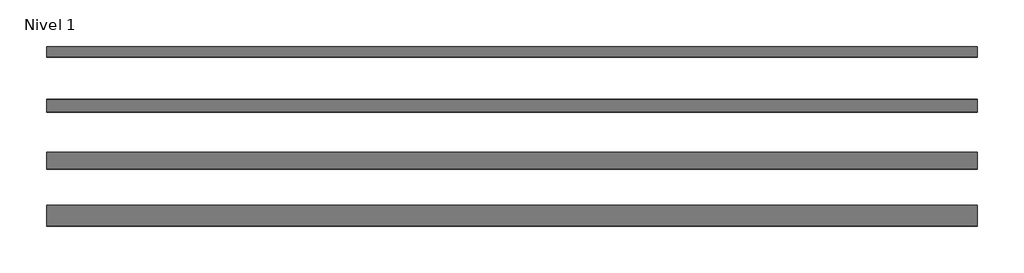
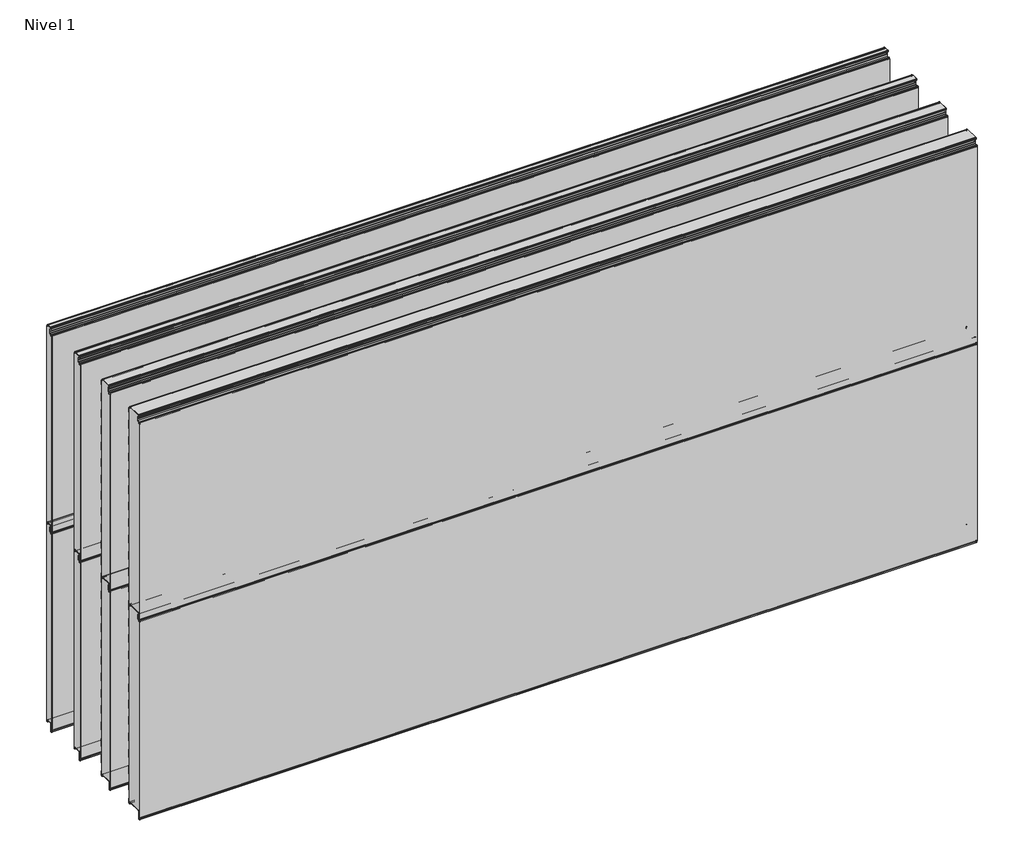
# One storey, incomplete: 8 plates.
"""IFC4 building model written with IfcOpenShell, lengths in millimetres."""

from ifc_helpers import new_model, si_unit, origin, place, context, project, spatial, transform, mapped, element, save
from components import plate_100_mm_0b3a8853, plate_50_mm_5ad36695, plate_60_mm_d0acd0f5, plate_80_mm_28c6c57e

model = new_model("IFC4")

# Units and contexts
model_context = context("Model", 3, world=origin())
ifc_project = project(units=[si_unit("LENGTHUNIT", "METRE", prefix="MILLI")], contexts=[model_context])

# Site, building, storey
site = spatial("IfcSite", under=ifc_project)
building = spatial("IfcBuilding", under=site)
storey = spatial("IfcBuildingStorey", under=building, Name="Nivel 1", Elevation=0.0)

# Plates
placement = place(None, origin())
plate_100_mm_shape = plate_100_mm_0b3a8853(model_context)
element("IfcPlate", 1, ObjectType="HIANSA PANEL - H20.F05.004-HFM-PANELES DE FACHADA HOR - PANEL LISO - Panel de Muro Cortina : 100 mm", at=placement, inside=storey, context=model_context, shape_type="MappedRepresentation", body=[
    mapped(plate_100_mm_shape, transform((6468.14367, 17686.5269271, 0.0), x_axis=(1.0, 0.0, 0.0), y_axis=(0.0, 1.0, 0.0), z_axis=(0.0, 0.0, 1.0))),
])
element("IfcPlate", 2, ObjectType="HIANSA PANEL - H20.F05.004-HFM-PANELES DE FACHADA HOR - PANEL LISO - Panel de Muro Cortina : 100 mm", at=placement, inside=storey, context=model_context, shape_type="MappedRepresentation", body=[
    mapped(plate_100_mm_shape, transform((6468.14367, 17686.5269271, 1100.0), x_axis=(1.0, 0.0, 0.0), y_axis=(0.0, 1.0, 0.0), z_axis=(0.0, 0.0, 1.0))),
])
plate_50_mm_shape = plate_50_mm_5ad36695(model_context)
element("IfcPlate", 3, ObjectType="HIANSA PANEL - H20.F05.004-HFM-PANELES DE FACHADA HOR - PANEL LISO - Panel de Muro Cortina : 50 mm", at=placement, inside=storey, context=model_context, shape_type="MappedRepresentation", body=[
    mapped(plate_50_mm_shape, transform((6468.14367, 18436.5269271, 0.0), x_axis=(1.0, 0.0, 0.0), y_axis=(0.0, 1.0, 0.0), z_axis=(0.0, 0.0, 1.0))),
])
element("IfcPlate", 4, ObjectType="HIANSA PANEL - H20.F05.004-HFM-PANELES DE FACHADA HOR - PANEL LISO - Panel de Muro Cortina : 50 mm", at=placement, inside=storey, context=model_context, shape_type="MappedRepresentation", body=[
    mapped(plate_50_mm_shape, transform((6468.14367, 18436.5269271, 1100.0), x_axis=(1.0, 0.0, 0.0), y_axis=(0.0, 1.0, 0.0), z_axis=(0.0, 0.0, 1.0))),
])
plate_60_mm_shape = plate_60_mm_d0acd0f5(model_context)
element("IfcPlate", 5, ObjectType="HIANSA PANEL - H20.F05.004-HFM-PANELES DE FACHADA HOR - PANEL LISO - Panel de Muro Cortina : 60 mm", at=placement, inside=storey, context=model_context, shape_type="MappedRepresentation", body=[
    mapped(plate_60_mm_shape, transform((6468.14367, 18186.5269271, 0.0), x_axis=(1.0, 0.0, 0.0), y_axis=(0.0, 1.0, 0.0), z_axis=(0.0, 0.0, 1.0))),
])
element("IfcPlate", 6, ObjectType="HIANSA PANEL - H20.F05.004-HFM-PANELES DE FACHADA HOR - PANEL LISO - Panel de Muro Cortina : 60 mm", at=placement, inside=storey, context=model_context, shape_type="MappedRepresentation", body=[
    mapped(plate_60_mm_shape, transform((6468.14367, 18186.5269271, 1100.0), x_axis=(1.0, 0.0, 0.0), y_axis=(0.0, 1.0, 0.0), z_axis=(0.0, 0.0, 1.0))),
])
plate_80_mm_shape = plate_80_mm_28c6c57e(model_context)
element("IfcPlate", 7, ObjectType="HIANSA PANEL - H20.F05.004-HFM-PANELES DE FACHADA HOR - PANEL LISO - Panel de Muro Cortina : 80 mm", at=placement, inside=storey, context=model_context, shape_type="MappedRepresentation", body=[
    mapped(plate_80_mm_shape, transform((6468.14367, 17936.5269271, 0.0), x_axis=(1.0, 0.0, 0.0), y_axis=(0.0, 1.0, 0.0), z_axis=(0.0, 0.0, 1.0))),
])
element("IfcPlate", 8, ObjectType="HIANSA PANEL - H20.F05.004-HFM-PANELES DE FACHADA HOR - PANEL LISO - Panel de Muro Cortina : 80 mm", at=placement, inside=storey, context=model_context, shape_type="MappedRepresentation", body=[
    mapped(plate_80_mm_shape, transform((6468.14367, 17936.5269271, 1100.0), x_axis=(1.0, 0.0, 0.0), y_axis=(0.0, 1.0, 0.0), z_axis=(0.0, 0.0, 1.0))),
])

save(model, "model.ifc")
